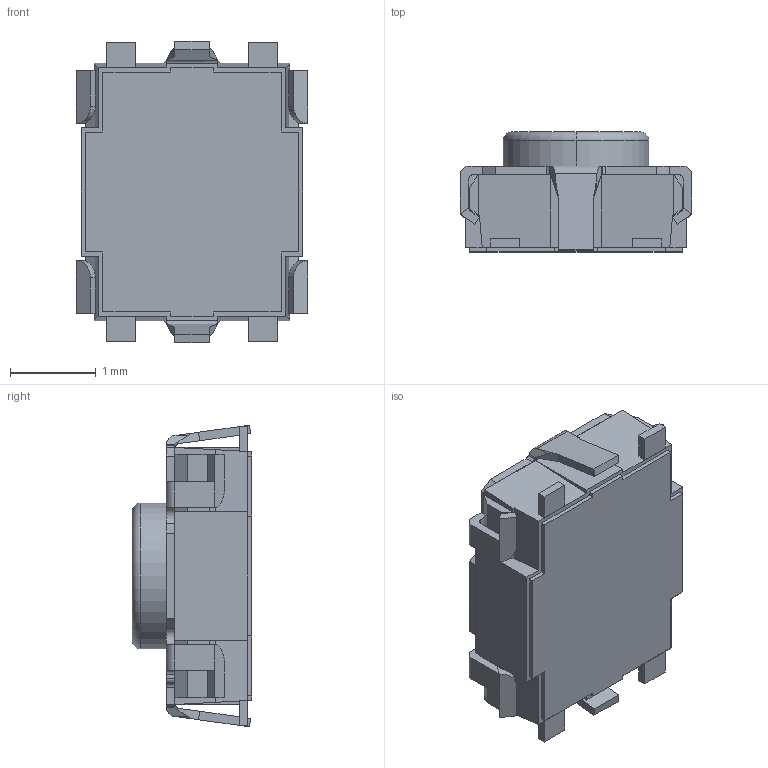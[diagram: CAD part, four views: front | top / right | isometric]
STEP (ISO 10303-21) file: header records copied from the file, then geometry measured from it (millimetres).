
FILE_DESCRIPTION (( 'STEP AP214' ), '1' );
FILE_NAME ('SKSGAAE010.STEP', '2022-03-18T11:09:58', ( '' ), ( '' ), 'SwSTEP 2.0', 'SolidWorks 2014', '' );
FILE_SCHEMA (( 'AUTOMOTIVE_DESIGN' ));
Length unit declared in the file: millimetre
Products named in the file (1): SKSGAAE010
Bounding box: 2.7 x 1.4 x 3.52 mm (x, y, z)
Volume: 8.1 mm3; surface area: 47.5 mm2
Topology: 7 solids, 7 shells, 245 faces, 650 edges, 420 vertices
Faces by surface type: plane 201, cylinder 42, torus 2
Entity records: 9868 total; most frequent: CARTESIAN_POINT 1424, ORIENTED_EDGE 1300, DIRECTION 1188, EDGE_CURVE 650, VECTOR 548, LINE 548, VERTEX_POINT 420, AXIS2_PLACEMENT_3D 320
